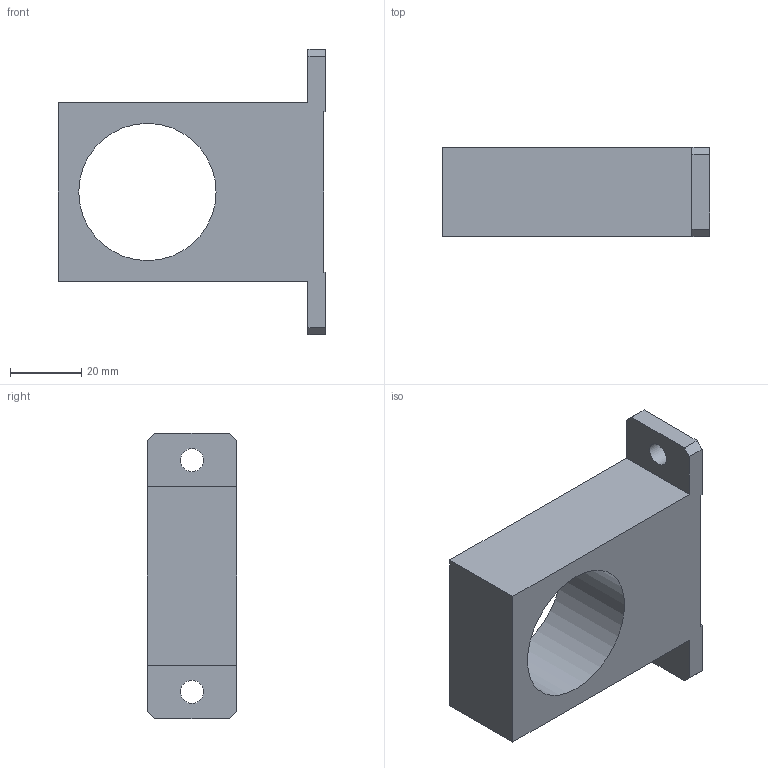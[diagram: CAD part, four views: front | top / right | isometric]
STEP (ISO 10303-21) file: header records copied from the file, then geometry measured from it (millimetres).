
FILE_DESCRIPTION(/* description */ (''),/* implementation_level */ '2;1');
FILE_NAME(/* name */ 'C:\Users\strothej\Documents\ActualDocuments\MicroscopeParts\TwoPhotonSystem\ScanningMechanics\v32\Drawings\Nikon_Tube_Lens_Mount.stp',/* time_stamp */ '2017-07-29T14:08:02-07:00',/* author */ ('strothej'),/* organization */ (''),/* preprocessor_version */ 'ST-DEVELOPER v16.1',/* originating_system */ 'Autodesk Inventor 2016',/* authorisation */ '');
FILE_SCHEMA (('AUTOMOTIVE_DESIGN { 1 0 10303 214 3 1 1 }'));
Length unit declared in the file: millimetre
Products named in the file (1): Nikon_Tube_Lens_Mount
Bounding box: 75 x 25 x 80 mm (x, y, z)
Volume: 67367.5 mm3; surface area: 16372.2 mm2
Topology: 1 solids, 1 shells, 28 faces, 74 edges, 50 vertices
Faces by surface type: plane 22, cylinder 6
Full cylindrical faces by diameter (mm): 3 x1, 6.5 x2, 38.5 x1
Entity records: 864 total; most frequent: CARTESIAN_POINT 145, DIRECTION 138, ORIENTED_EDGE 136, EDGE_CURVE 68, LINE 56, VECTOR 56, VERTEX_POINT 48, AXIS2_PLACEMENT_3D 41
